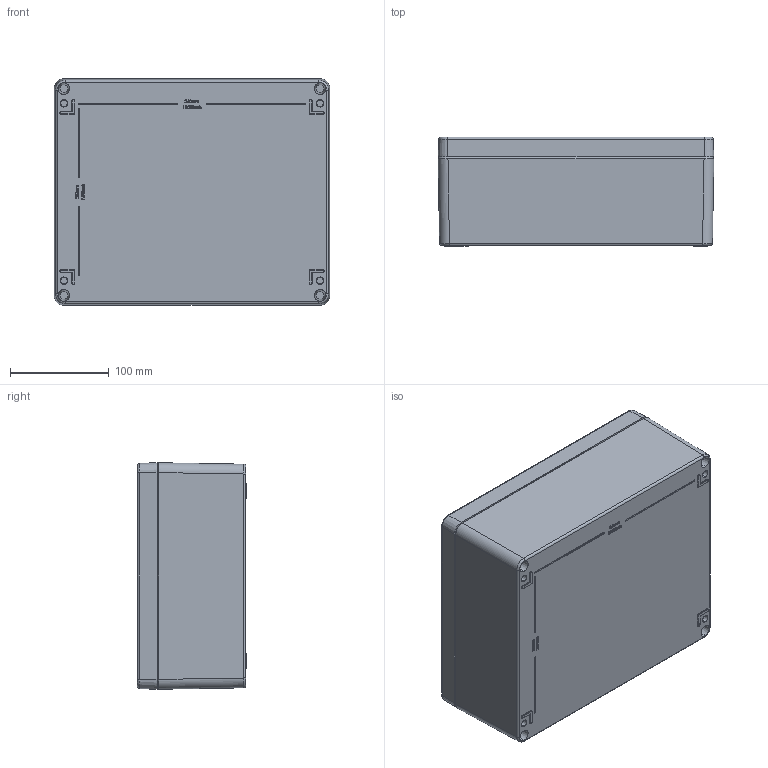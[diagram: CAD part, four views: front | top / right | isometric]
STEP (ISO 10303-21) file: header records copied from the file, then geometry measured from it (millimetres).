
FILE_DESCRIPTION (( 'STEP AP203' ), '1' );
FILE_NAME ('BB093.STEP', '2024-12-28T13:33:20', ( '' ), ( '' ), 'SwSTEP 2.0', 'SolidWorks 2019', '' );
FILE_SCHEMA (( 'CONFIG_CONTROL_DESIGN' ));
Length unit declared in the file: millimetre
Products named in the file (3): LID BASE 280.stp; cover 230280111; BB093
Assembly tree (2 placements, depth 2):
  BB093
    cover 230280111
    LID BASE 280.stp
Bounding box: 280 x 111 x 230 mm (x, y, z)
Volume: 1166116.9 mm3; surface area: 485774.8 mm2
Topology: 4 solids, 4 shells, 1354 faces, 3274 edges, 2069 vertices
Faces by surface type: plane 524, bspline 273, cylinder 261, cone 232, torus 57, sphere 7
Entity records: 55829 total; most frequent: CARTESIAN_POINT 25354, ORIENTED_EDGE 6540, DIRECTION 5670, EDGE_CURVE 3270, VERTEX_POINT 2069, AXIS2_PLACEMENT_3D 1940, LINE 1790, VECTOR 1790
